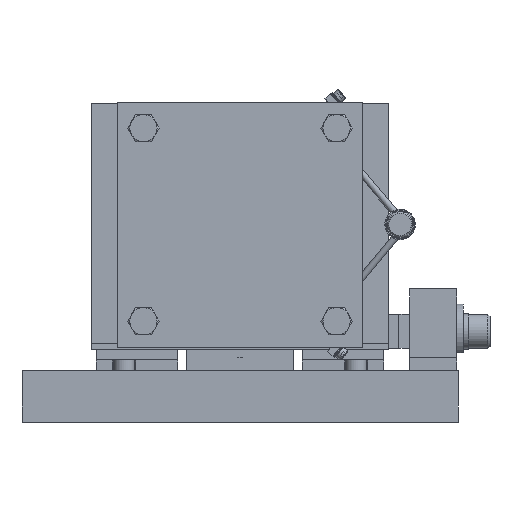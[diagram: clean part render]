
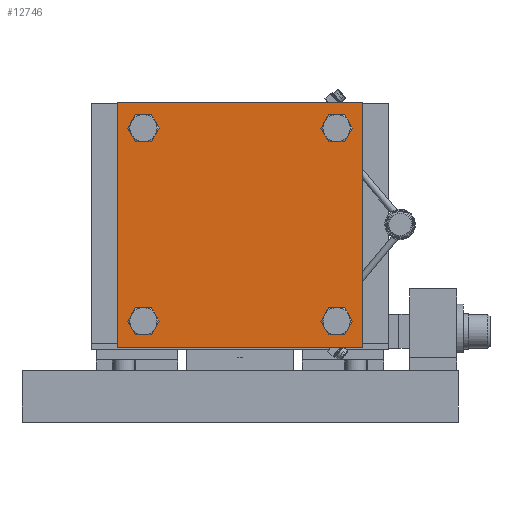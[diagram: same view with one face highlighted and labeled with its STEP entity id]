
A CAD part, front view. The second image highlights one B-rep face of the part: STEP entity #12746.
In plain terms, the highlighted planar face has unit normal (0, -1, 0) as drawn and (0, 0, 1) by its records, which use the part's own axes.
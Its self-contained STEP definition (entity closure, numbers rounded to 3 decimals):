
#756=LINE($,#19740,#1788);
#760=LINE($,#19748,#1792);
#763=LINE($,#19754,#1795);
#766=LINE($,#19759,#1798);
#1788=VECTOR($,#15673,114.3);
#1792=VECTOR($,#15679,114.3);
#1795=VECTOR($,#15684,114.3);
#1798=VECTOR($,#15689,114.3);
#2740=PLANE($,#13773);
#3248=FACE_BOUND($,#4907,.T.);
#3249=FACE_BOUND($,#4908,.T.);
#3250=FACE_BOUND($,#4909,.T.);
#3251=FACE_BOUND($,#4910,.T.);
#3981=FACE_OUTER_BOUND($,#4906,.T.);
#4906=EDGE_LOOP($,(#9842,#9843,#9844,#9845));
#4907=EDGE_LOOP($,(#9846));
#4908=EDGE_LOOP($,(#9847));
#4909=EDGE_LOOP($,(#9848));
#4910=EDGE_LOOP($,(#9849));
#6002=CIRCLE($,#13751,4.25);
#6004=CIRCLE($,#13754,4.25);
#6006=CIRCLE($,#13757,4.25);
#6008=CIRCLE($,#13760,4.25);
#6641=VERTEX_POINT($,#19708);
#6643=VERTEX_POINT($,#19713);
#6645=VERTEX_POINT($,#19718);
#6647=VERTEX_POINT($,#19723);
#6652=VERTEX_POINT($,#19738);
#6653=VERTEX_POINT($,#19739);
#6656=VERTEX_POINT($,#19747);
#6658=VERTEX_POINT($,#19753);
#7895=EDGE_CURVE($,#6641,#6641,#6002,.T.);
#7897=EDGE_CURVE($,#6643,#6643,#6004,.T.);
#7899=EDGE_CURVE($,#6645,#6645,#6006,.T.);
#7901=EDGE_CURVE($,#6647,#6647,#6008,.T.);
#7906=EDGE_CURVE($,#6652,#6653,#756,.T.);
#7910=EDGE_CURVE($,#6653,#6656,#760,.T.);
#7913=EDGE_CURVE($,#6656,#6658,#763,.T.);
#7916=EDGE_CURVE($,#6658,#6652,#766,.T.);
#9842=ORIENTED_EDGE($,*,*,#7906,.F.);
#9843=ORIENTED_EDGE($,*,*,#7916,.F.);
#9844=ORIENTED_EDGE($,*,*,#7913,.F.);
#9845=ORIENTED_EDGE($,*,*,#7910,.F.);
#9846=ORIENTED_EDGE($,*,*,#7895,.T.);
#9847=ORIENTED_EDGE($,*,*,#7897,.T.);
#9848=ORIENTED_EDGE($,*,*,#7899,.T.);
#9849=ORIENTED_EDGE($,*,*,#7901,.T.);
#12746=ADVANCED_FACE($,(#3981,#3248,#3249,#3250,#3251),#2740,.T.);
#13751=AXIS2_PLACEMENT_3D($,#19709,#15635,#15636);
#13754=AXIS2_PLACEMENT_3D($,#19714,#15641,#15642);
#13757=AXIS2_PLACEMENT_3D($,#19719,#15647,#15648);
#13760=AXIS2_PLACEMENT_3D($,#19724,#15653,#15654);
#13773=AXIS2_PLACEMENT_3D($,#19761,#15691,#15692);
#15635=DIRECTION('center_axis',(0.,0.,-1.));
#15636=DIRECTION('ref_axis',(1.,0.,0.));
#15641=DIRECTION('center_axis',(0.,0.,-1.));
#15642=DIRECTION('ref_axis',(1.,0.,0.));
#15647=DIRECTION('center_axis',(0.,0.,-1.));
#15648=DIRECTION('ref_axis',(1.,0.,0.));
#15653=DIRECTION('center_axis',(0.,0.,-1.));
#15654=DIRECTION('ref_axis',(1.,0.,0.));
#15673=DIRECTION($,(0.,-1.,0.));
#15679=DIRECTION($,(-1.,0.,0.));
#15684=DIRECTION($,(0.,1.,0.));
#15689=DIRECTION($,(1.,0.,0.));
#15691=DIRECTION('center_axis',(0.,0.,1.));
#15692=DIRECTION('ref_axis',(1.,0.,0.));
#19708=CARTESIAN_POINT('',(49.25,-45.,30.));
#19709=CARTESIAN_POINT('Origin',(45.,-45.,30.));
#19713=CARTESIAN_POINT('',(49.25,45.,30.));
#19714=CARTESIAN_POINT('Origin',(45.,45.,30.));
#19718=CARTESIAN_POINT('',(-40.75,45.,30.));
#19719=CARTESIAN_POINT('Origin',(-45.,45.,30.));
#19723=CARTESIAN_POINT('',(-40.75,-45.,30.));
#19724=CARTESIAN_POINT('Origin',(-45.,-45.,30.));
#19738=CARTESIAN_POINT('',(57.15,57.15,30.));
#19739=CARTESIAN_POINT('',(57.15,-57.15,30.));
#19740=CARTESIAN_POINT($,(57.15,57.15,30.));
#19747=CARTESIAN_POINT('',(-57.15,-57.15,30.));
#19748=CARTESIAN_POINT($,(57.15,-57.15,30.));
#19753=CARTESIAN_POINT('',(-57.15,57.15,30.));
#19754=CARTESIAN_POINT($,(-57.15,-57.15,30.));
#19759=CARTESIAN_POINT($,(-57.15,57.15,30.));
#19761=CARTESIAN_POINT('Origin',(0.,0.,
30.));
